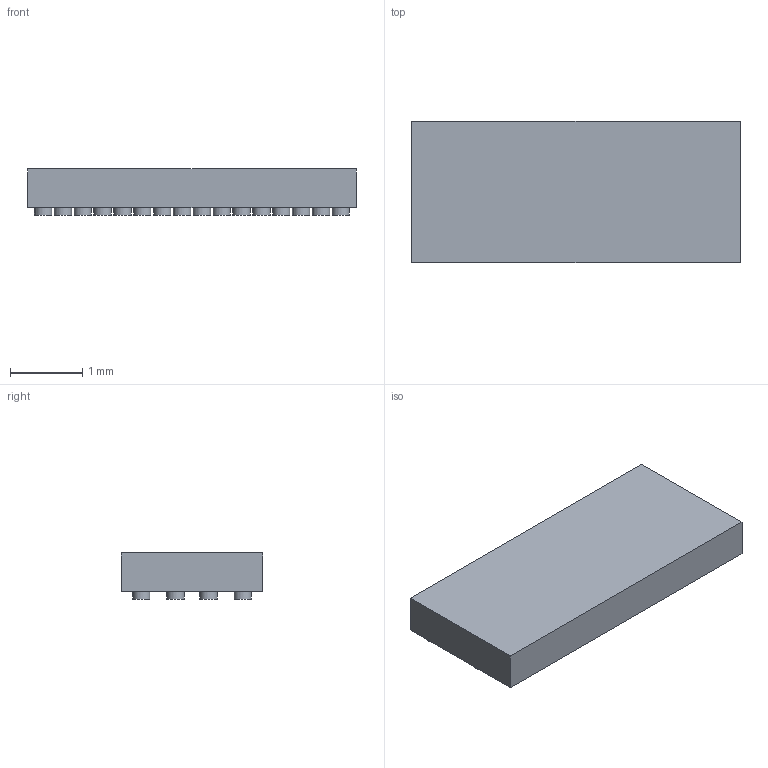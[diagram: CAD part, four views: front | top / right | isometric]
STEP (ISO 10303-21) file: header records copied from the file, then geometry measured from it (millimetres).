
FILE_DESCRIPTION(('FreeCAD Model'),'2;1');
FILE_NAME('/var/www/3D/0T/16436967.4.4.stp','2025-01-12T13:24:32',( 'Author'),(''),'Open CASCADE STEP processor 6.9','FreeCAD','Unknown' );
FILE_SCHEMA(('AUTOMOTIVE_DESIGN { 1 0 10303 214 1 1 1 1 }'));
Length unit declared in the file: millimetre
Products named in the file (3): ASSEMBLY; Body; Pins
Assembly tree (2 placements, depth 2):
  ASSEMBLY
    Body
    Pins
Bounding box: 4.54 x 1.96 x 0.64 mm (x, y, z)
Volume: 4.9 mm3; surface area: 30.1 mm2
Topology: 33 solids, 33 shells, 102 faces, 108 edges, 72 vertices
Faces by surface type: plane 70, cylinder 32
Full cylindrical faces by diameter (mm): 0.24 x32
Entity records: 3603 total; most frequent: DIRECTION 598, CARTESIAN_POINT 501, ORIENTED_EDGE 216, PCURVE 216, DEFINITIONAL_REPRESENTATION 216, LINE 196, VECTOR 196, AXIS2_PLACEMENT_3D 169
